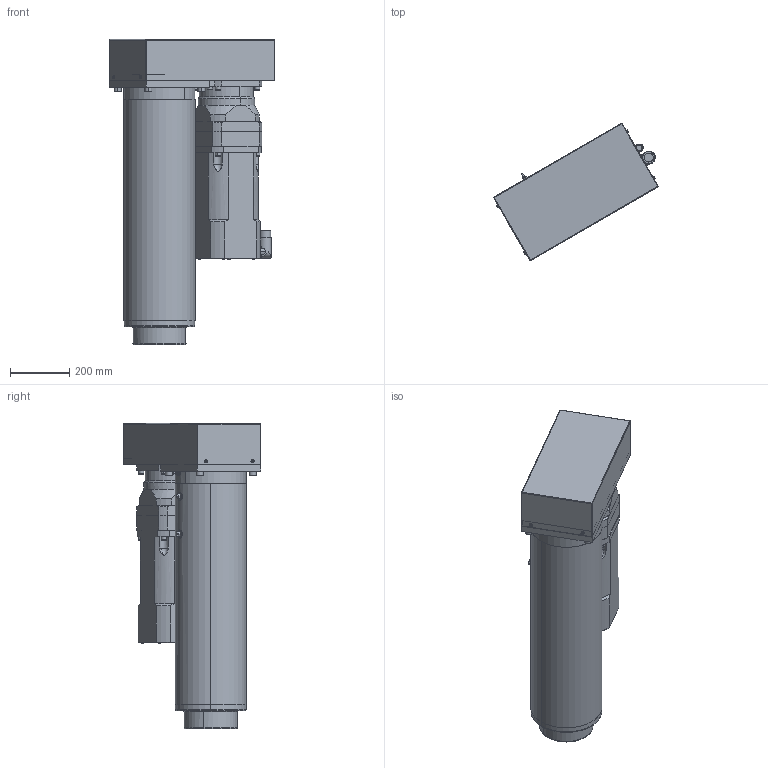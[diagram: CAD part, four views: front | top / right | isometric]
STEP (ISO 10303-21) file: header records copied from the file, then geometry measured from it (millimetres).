
FILE_DESCRIPTION (( 'STEP AP203' ), '1' );
FILE_NAME ('MLN5P2000-035-010HG0.STEP', '2016-06-21T13:13:26', ( 'paulsen' ), ( '' ), 'SwSTEP 2.0', 'SolidWorks 2013', '' );
FILE_SCHEMA (( 'CONFIG_CONTROL_DESIGN' ));
Length unit declared in the file: millimetre
Products named in the file (1): MLN5P2000-035-010HG0
Bounding box: 555.11 x 462.51 x 1026.5 mm (x, y, z)
Surface area: 3829844 mm2 (no closed solid volume)
Topology: 0 solids, 48 shells, 1594 faces, 3724 edges, 2250 vertices
Faces by surface type: plane 662, cylinder 596, cone 268, torus 58, bspline 10
Entity records: 46471 total; most frequent: CARTESIAN_POINT 9772, DIRECTION 8089, ORIENTED_EDGE 7128, EDGE_CURVE 3570, AXIS2_PLACEMENT_3D 3108, VERTEX_POINT 2250, EDGE_LOOP 1910, VECTOR 1873
